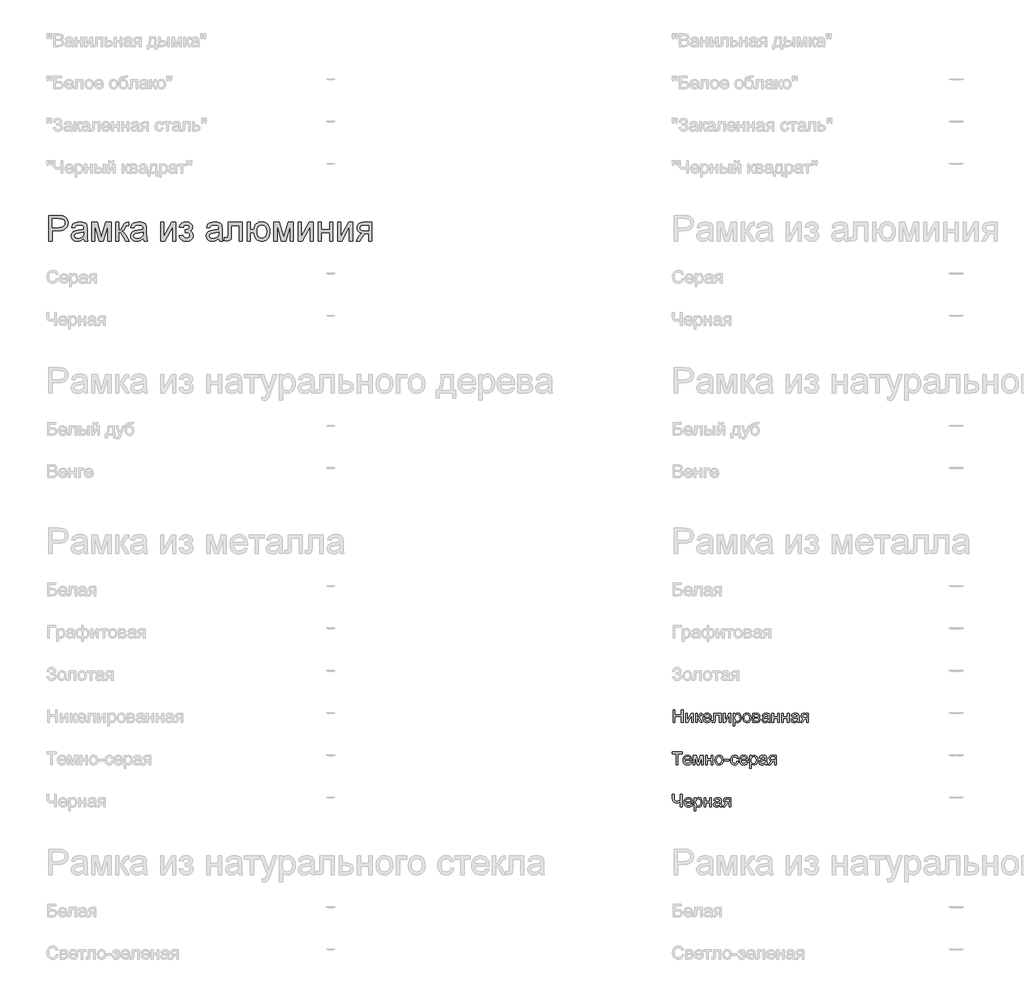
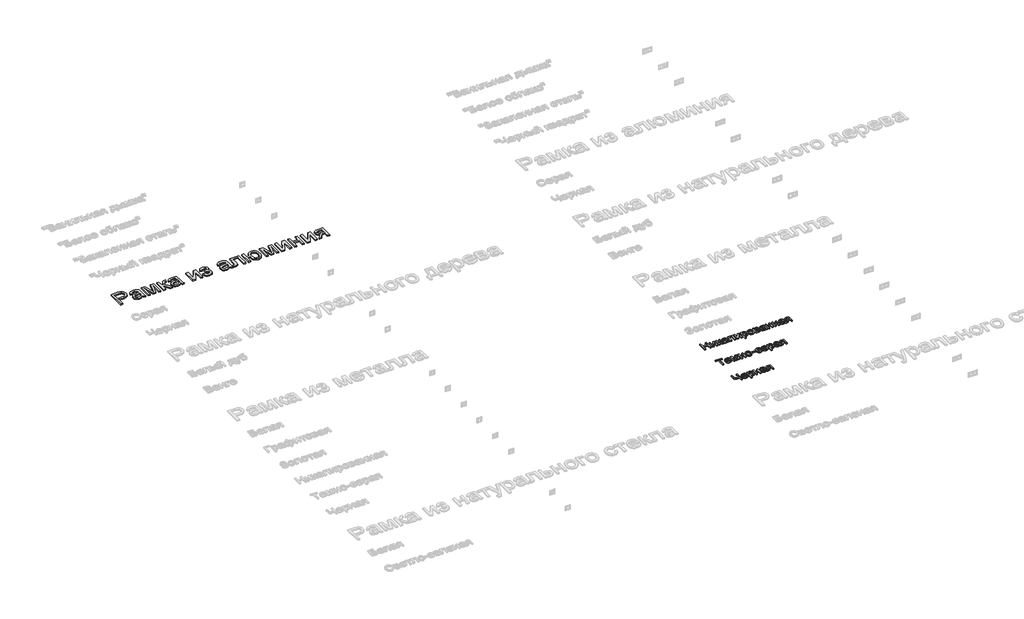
# One storey, part 112 of 168: 4 proxies.
"""IFC4 building model written with IfcOpenShell, lengths in millimetres."""

from ifc_helpers import new_model, si_unit, origin, origin_with_axes, place, context, project, spatial, polyline, outline, extrude, element, save

model = new_model("IFC4")

# Units and contexts
model_context = context("Model", 3, world=origin())
ifc_project = project(units=[si_unit("LENGTHUNIT", "METRE", prefix="MILLI")], contexts=[model_context])

# Site, building, storey
site = spatial("IfcSite", under=ifc_project)
building = spatial("IfcBuilding", under=site)
storey = spatial("IfcBuildingStorey", under=building, Name="Этаж 01", Elevation=0.0)

# Proxies
placement = place(None, origin())
element("IfcBuildingElementProxy", 1, Name="300 мм Arial 2", ObjectType="300 мм Arial 2", at=placement, inside=storey, context=model_context, shape_type="SweptSolid", body=[
    extrude(outline(polyline([(32899.0945017, -8848.4056816), (32899.0945017, -8547.0367511), (33010.7834754, -8547.0367511), (33055.8122316, -8549.9062307), (33075.8893915, -8555.2681108), (33092.4164901, -8563.9961111), (33105.7246213, -8576.4857048), (33116.1448788, -8593.1323651), (33122.8771193, -8612.7680666), (33125.1211995, -8634.224784), (33123.6059855, -8652.7246498), (33119.0603436, -8669.7437906), (33111.4842738, -8685.2822064), (33100.877776, -8699.3398971), (33086.3165468, -8710.9925593), (33066.8762826, -8719.3158895), (33042.5569835, -8724.3098875), (33013.3586494, -8725.9745536), (32936.765618, -8725.9745536), (32936.765618, -8848.4056816), (32899.0945017, -8848.4056816)]), holes=[polyline([(32936.765618, -8688.3034373), (33015.5659413, -8688.3034373), (33048.9696265, -8684.8453465), (33071.0425462, -8674.4710742), (33083.3481989, -8657.824414), (33087.4500832, -8635.5491592), (33085.0312591, -8618.6265874), (33077.7747867, -8604.352766), (33066.581977, -8593.6106117), (33052.3541408, -8587.2830414), (33014.6830245, -8584.7078674), (32936.765618, -8584.7078674), (32936.765618, -8688.3034373)])]), origin_with_axes(), (0.0, 0.0, 1.0), 20.0),
    extrude(outline(polyline([(33313.476781, -8820.1523443), (33295.4781544, -8835.584994), (33276.9460989, -8845.6833548), (33257.4575502, -8851.256767), (33236.589444, -8853.1145711), (33205.1079423, -8848.6448049), (33181.8853914, -8835.2355061), (33167.5655847, -8814.8732377), (33162.7923158, -8789.5445623), (33164.5949376, -8773.9279716), (33170.0028029, -8759.7461207), (33178.3445271, -8747.6060149), (33188.9487257, -8738.1146594), (33215.3258647, -8725.7538244), (33247.9202095, -8720.0884417), (33286.4374544, -8714.1287533), (33313.2560518, -8707.1389954), (33313.476781, -8698.7512859), (33310.883213, -8681.9390788), (33303.1025088, -8670.9394071), (33285.7016904, -8662.7724268), (33261.4582669, -8660.0501), (33239.0174652, -8661.8619189), (33223.3456922, -8667.2973753), (33212.6587202, -8677.3497509), (33205.1723216, -8693.0123268), (33167.5012053, -8688.3034373), (33174.0403078, -8667.7020455), (33183.7983777, -8651.5152378), (33197.685923, -8639.1360086), (33216.6134517, -8629.9573528), (33239.7624262, -8624.273576), (33266.3143092, -8622.3789837), (33291.7809404, -8624.0528468), (33311.9684648, -8629.074436), (33327.1895824, -8636.625214), (33337.7569927, -8645.8866432), (33344.7651447, -8657.3369703), (33349.3084874, -8671.4544419), (33351.1478973, -8704.4166687), (33351.1478973, -8751.2848348), (33353.0608837, -8816.7310418), (33360.5656764, -8848.4056816), (33322.8945601, -8848.4056816), (33313.476781, -8820.1523443)]), holes=[polyline([(33313.476781, -8744.8101117), (33252.7026754, -8756.3616064), (33220.2922716, -8762.4684475), (33205.61378, -8772.4012614), (33200.4634321, -8786.895812), (33203.2685323, -8798.0978187), (33211.683833, -8807.2764745), (33225.525393, -8813.4017097), (33244.6092715, -8815.4434548), (33264.8427813, -8813.1901776), (33282.7218462, -8806.4303459), (33297.2163968, -8796.4699409), (33307.2963635, -8784.6149436), (33311.7661297, -8772.4012614), (33313.2560518, -8755.4786896), (33313.476781, -8744.8101117)])]), origin_with_axes(), (0.0, 0.0, 1.0), 20.0),
    extrude(outline(polyline([(33402.9456823, -8627.0878733), (33467.7664898, -8627.0878733), (33517.7248647, -8804.2598421), (33571.5827888, -8627.0878733), (33633.6812696, -8627.0878733), (33633.6812696, -8848.4056816), (33596.0101533, -8848.4056816), (33596.0101533, -8670.2036431), (33541.8579236, -8848.4056816), (33492.4145835, -8848.4056816), (33440.6167986, -8661.6687808), (33440.6167986, -8848.4056816), (33402.9456823, -8848.4056816), (33402.9456823, -8627.0878733)])), origin_with_axes(), (0.0, 0.0, 1.0), 20.0),
    extrude(outline(polyline([(33690.1879441, -8627.0878733), (33727.8590604, -8627.0878733), (33727.8590604, -8721.265664), (33743.1813455, -8719.5734069), (33753.0957653, -8714.4966353), (33761.8697508, -8701.2528835), (33773.7707334, -8675.0596854), (33790.9508226, -8641.0306009), (33806.1075608, -8629.9573528), (33833.6619222, -8627.0878733), (33840.8724093, -8627.0878733), (33840.8724093, -8664.9797188), (33830.7188662, -8664.7589896), (33812.3247665, -8668.7321151), (33799.3753203, -8693.5273616), (33784.1817939, -8720.345959), (33762.8814263, -8733.4793463), (33774.8191971, -8738.7814455), (33786.6466032, -8748.1394438), (33809.9703217, -8779.0231373), (33850.2901884, -8848.4056816), (33807.4687241, -8848.4056816), (33767.9581979, -8780.4946653), (33748.0925701, -8751.7630814), (33738.8035497, -8746.5483542), (33727.8590604, -8744.8101117), (33727.8590604, -8848.4056816), (33690.1879441, -8848.4056816), (33690.1879441, -8627.0878733)])), origin_with_axes(), (0.0, 0.0, 1.0), 20.0),
    extrude(outline(polyline([(34015.1013222, -8820.1523443), (33997.1026956, -8835.584994), (33978.5706401, -8845.6833548), (33959.0820914, -8851.256767), (33938.2139852, -8853.1145711), (33906.7324835, -8848.6448049), (33883.5099326, -8835.2355061), (33869.1901259, -8814.8732377), (33864.416857, -8789.5445623), (33866.2194788, -8773.9279716), (33871.6273441, -8759.7461207), (33879.9690683, -8747.6060149), (33890.5732669, -8738.1146594), (33916.9504059, -8725.7538244), (33949.5447507, -8720.0884417), (33988.0619956, -8714.1287533), (34014.880593, -8707.1389954), (34015.1013222, -8698.7512859), (34012.5077542, -8681.9390788), (34004.72705, -8670.9394071), (33987.3262316, -8662.7724268), (33963.0828081, -8660.0501), (33940.6420064, -8661.8619189), (33924.9702334, -8667.2973753), (33914.2832614, -8677.3497509), (33906.7968628, -8693.0123268), (33869.1257465, -8688.3034373), (33875.664849, -8667.7020455), (33885.4229189, -8651.5152378), (33899.3104642, -8639.1360086), (33918.2379929, -8629.9573528), (33941.3869674, -8624.273576), (33967.9388504, -8622.3789837), (33993.4054816, -8624.0528468), (34013.593006, -8629.074436), (34028.8141236, -8636.625214), (34039.3815339, -8645.8866432), (34046.3896859, -8657.3369703), (34050.9330286, -8671.4544419), (34052.7724385, -8704.4166687), (34052.7724385, -8751.2848348), (34054.6854249, -8816.7310418), (34062.1902176, -8848.4056816), (34024.5191013, -8848.4056816), (34015.1013222, -8820.1523443)]), holes=[polyline([(34015.1013222, -8744.8101117), (33954.3272166, -8756.3616064), (33921.9168128, -8762.4684475), (33907.2383212, -8772.4012614), (33902.0879733, -8786.895812), (33904.8930735, -8798.0978187), (33913.3083742, -8807.2764745), (33927.1499342, -8813.4017097), (33946.2338127, -8815.4434548), (33966.4673225, -8813.1901776), (33984.3463874, -8806.4303459), (33998.840938, -8796.4699409), (34008.9209047, -8784.6149436), (34013.3906709, -8772.4012614), (34014.880593, -8755.4786896), (34015.1013222, -8744.8101117)])]), origin_with_axes(), (0.0, 0.0, 1.0), 20.0),
    extrude(outline(polyline([(34222.2924619, -8627.0878733), (34259.9635782, -8627.0878733), (34259.9635782, -8795.8721327), (34352.5226882, -8627.0878733), (34401.2302644, -8627.0878733), (34401.2302644, -8848.4056816), (34363.5591481, -8848.4056816), (34363.5591481, -8680.6514918), (34271.5886493, -8848.4056816), (34222.2924619, -8848.4056816), (34222.2924619, -8627.0878733)])), origin_with_axes(), (0.0, 0.0, 1.0), 20.0),
    extrude(outline(polyline([(34509.5347237, -8749.5190013), (34509.5347237, -8711.847885), (34539.259589, -8710.376357), (34554.2691744, -8702.5404705), (34559.5666751, -8695.1920276), (34561.3325087, -8686.1697217), (34558.9688668, -8675.4551586), (34551.8779414, -8667.1502225), (34541.0530137, -8661.8251307), (34527.4873651, -8660.0501), (34513.7745637, -8661.8159336), (34502.2874484, -8667.1134343), (34493.0260192, -8675.9426022), (34485.9902761, -8688.3034373), (34443.6102702, -8683.5945477), (34454.8490652, -8656.8127385), (34471.9371838, -8637.6828747), (34494.8746262, -8626.2049565), (34523.6613924, -8622.3789837), (34555.1520911, -8627.041888), (34578.9908444, -8641.0306009), (34594.0004298, -8661.4940369), (34599.003625, -8685.5811105), (34597.2239958, -8697.9419455), (34591.8851084, -8708.9784054), (34582.9869626, -8718.6904901), (34570.5295585, -8727.0781996), (34585.0700944, -8737.5444423), (34595.4351696, -8750.5490709), (34601.6431783, -8766.1288733), (34603.7125145, -8784.320638), (34598.460999, -8812.0497434), (34582.7064526, -8834.0214956), (34557.515733, -8848.3413022), (34523.955698, -8853.1145711), (34491.1314269, -8848.6999872), (34466.0142837, -8835.4562353), (34448.6042683, -8813.3833156), (34438.9013807, -8782.481228), (34481.2813865, -8777.7723385), (34487.6273509, -8793.7016289), (34498.2775347, -8805.5842173), (34511.9995331, -8812.9786454), (34527.5609415, -8815.4434548), (34542.7176797, -8813.079813), (34555.0785147, -8805.9888875), (34563.3006773, -8795.2191421), (34566.0413982, -8781.8190404), (34564.339944, -8771.2056449), (34559.2355813, -8762.0269891), (34544.7410307, -8751.4319876), (34516.8923636, -8749.2982721), (34509.5347237, -8749.5190013)])), origin_with_axes(), (0.0, 0.0, 1.0), 20.0),
    extrude(outline(polyline([(34909.7903345, -8820.1523443), (34891.7917079, -8835.584994), (34873.2596524, -8845.6833548), (34853.7711037, -8851.256767), (34832.9029975, -8853.1145711), (34801.4214958, -8848.6448049), (34778.1989448, -8835.2355061), (34763.8791382, -8814.8732377), (34759.1058693, -8789.5445623), (34760.908491, -8773.9279716), (34766.3163564, -8759.7461207), (34774.6580806, -8747.6060149), (34785.2622791, -8738.1146594), (34811.6394182, -8725.7538244), (34844.233763, -8720.0884417), (34882.7510079, -8714.1287533), (34909.5696053, -8707.1389954), (34909.7903345, -8698.7512859), (34907.1967664, -8681.9390788), (34899.4160622, -8670.9394071), (34882.0152439, -8662.7724268), (34857.7718204, -8660.0501), (34835.3310187, -8661.8619189), (34819.6592457, -8667.2973753), (34808.9722737, -8677.3497509), (34801.4858751, -8693.0123268), (34763.8147588, -8688.3034373), (34770.3538613, -8667.7020455), (34780.1119312, -8651.5152378), (34793.9994765, -8639.1360086), (34812.9270052, -8629.9573528), (34836.0759797, -8624.273576), (34862.6278627, -8622.3789837), (34888.0944938, -8624.0528468), (34908.2820183, -8629.074436), (34923.5031359, -8636.625214), (34934.0705462, -8645.8866432), (34941.0786982, -8657.3369703), (34945.6220408, -8671.4544419), (34947.4614508, -8704.4166687), (34947.4614508, -8751.2848348), (34949.3744372, -8816.7310418), (34956.8792299, -8848.4056816), (34919.2081136, -8848.4056816), (34909.7903345, -8820.1523443)]), holes=[polyline([(34909.7903345, -8744.8101117), (34849.0162289, -8756.3616064), (34816.6058251, -8762.4684475), (34801.9273335, -8772.4012614), (34796.7769856, -8786.895812), (34799.5820858, -8798.0978187), (34807.9973864, -8807.2764745), (34821.8389465, -8813.4017097), (34840.922825, -8815.4434548), (34861.1563347, -8813.1901776), (34879.0353997, -8806.4303459), (34893.5299503, -8796.4699409), (34903.609917, -8784.6149436), (34908.0796832, -8772.4012614), (34909.5696053, -8755.4786896), (34909.7903345, -8744.8101117)])]), origin_with_axes(), (0.0, 0.0, 1.0), 20.0),
    extrude(outline(polyline([(35018.0947939, -8627.0878733), (35187.6148173, -8627.0878733), (35187.6148173, -8848.1849524), (35149.9437009, -8848.1849524), (35149.9437009, -8664.7589896), (35055.7659102, -8664.7589896), (35055.7659102, -8770.3411222), (35053.2275244, -8819.0486984), (35048.4726496, -8830.0759612), (35039.2847968, -8839.6133019), (35025.3420692, -8846.2075866), (35006.32257, -8848.4056816), (34975.714788, -8846.4926952), (34975.714788, -8810.7345653), (34992.5637834, -8810.7345653), (35009.5967198, -8808.4169087), (35016.4025367, -8801.0592688), (35018.0947939, -8768.2074066), (35018.0947939, -8627.0878733)])), origin_with_axes(), (0.0, 0.0, 1.0), 20.0),
    extrude(outline(polyline([(35244.1214917, -8627.0878733), (35281.792608, -8627.0878733), (35281.792608, -8711.847885), (35324.1726139, -8711.847885), (35333.9490779, -8673.4410047), (35342.4724439, -8658.1003255), (35353.4192325, -8645.3348202), (35366.4813426, -8635.2916418), (35381.350673, -8628.1179429), (35416.5109947, -8622.3789837), (35446.0611159, -8625.754301), (35468.6398734, -8635.880253), (35486.0590858, -8651.929105), (35500.1305722, -8673.0731227), (35509.4287896, -8700.8850015), (35512.5281954, -8736.937437), (35510.9256095, -8763.7928227), (35506.1178516, -8787.1901176), (35498.1049219, -8807.1293217), (35486.8868203, -8823.6104351), (35472.9233994, -8836.5184946), (35456.6745115, -8845.7385371), (35438.1401567, -8851.2705626), (35417.320335, -8853.1145711), (35397.9168591, -8851.3855257), (35380.5413326, -8846.1983896), (35365.1937556, -8837.5531627), (35351.8741281, -8825.4498451), (35340.9135439, -8810.3298951), (35332.6430968, -8792.6347711), (35324.1726139, -8749.5190013), (35281.792608, -8749.5190013), (35281.792608, -8848.4056816), (35244.1214917, -8848.4056816), (35244.1214917, -8627.0878733)]), holes=[polyline([(35418.9390158, -8660.0501), (35394.9255186, -8664.9245365), (35376.8901038, -8679.5478458), (35365.6053236, -8702.9635348), (35361.8437302, -8734.2151103), (35365.6329147, -8770.6262307), (35377.0004684, -8795.8353445), (35394.7139864, -8810.5414272), (35417.5410642, -8815.4434548), (35440.4325214, -8810.9093092), (35458.7806359, -8797.3068724), (35470.8379683, -8773.6060749), (35474.8570791, -8738.776847), (35471.3805942, -8704.3338952), (35460.9511397, -8679.7317868), (35443.495139, -8664.9705217), (35418.9390158, -8660.0501)])]), origin_with_axes(), (0.0, 0.0, 1.0), 20.0),
    extrude(outline(polyline([(35559.6170908, -8627.0878733), (35624.4378983, -8627.0878733), (35674.3962733, -8804.2598421), (35728.2541974, -8627.0878733), (35790.3526782, -8627.0878733), (35790.3526782, -8848.4056816), (35752.6815618, -8848.4056816), (35752.6815618, -8670.2036431), (35698.5293322, -8848.4056816), (35649.085992, -8848.4056816), (35597.2882071, -8661.6687808), (35597.2882071, -8848.4056816), (35559.6170908, -8848.4056816), (35559.6170908, -8627.0878733)])), origin_with_axes(), (0.0, 0.0, 1.0), 20.0),
    extrude(outline(polyline([(35846.8593526, -8627.0878733), (35884.5304689, -8627.0878733), (35884.5304689, -8795.8721327), (35977.0895789, -8627.0878733), (36025.7971551, -8627.0878733), (36025.7971551, -8848.4056816), (35988.1260388, -8848.4056816), (35988.1260388, -8680.6514918), (35896.15554, -8848.4056816), (35846.8593526, -8848.4056816), (35846.8593526, -8627.0878733)])), origin_with_axes(), (0.0, 0.0, 1.0), 20.0),
    extrude(outline(polyline([(36082.3038295, -8627.0878733), (36119.9749458, -8627.0878733), (36119.9749458, -8711.847885), (36218.8616261, -8711.847885), (36218.8616261, -8627.0878733), (36256.5327424, -8627.0878733), (36256.5327424, -8848.4056816), (36218.8616261, -8848.4056816), (36218.8616261, -8749.5190013), (36119.9749458, -8749.5190013), (36119.9749458, -8848.4056816), (36082.3038295, -8848.4056816), (36082.3038295, -8627.0878733)])), origin_with_axes(), (0.0, 0.0, 1.0), 20.0),
    extrude(outline(polyline([(36313.0394169, -8627.0878733), (36350.7105332, -8627.0878733), (36350.7105332, -8795.8721327), (36443.2696432, -8627.0878733), (36491.9772194, -8627.0878733), (36491.9772194, -8848.4056816), (36454.306103, -8848.4056816), (36454.306103, -8680.6514918), (36362.3356043, -8848.4056816), (36313.0394169, -8848.4056816), (36313.0394169, -8627.0878733)])), origin_with_axes(), (0.0, 0.0, 1.0), 20.0),
    extrude(outline(polyline([(36718.0039172, -8627.0878733), (36718.0039172, -8848.4056816), (36680.3328009, -8848.4056816), (36680.3328009, -8763.6456699), (36659.8049856, -8763.6456699), (36631.8459539, -8768.4281358), (36620.6807354, -8778.8575904), (36605.5791795, -8800.5810222), (36575.5600087, -8848.4056816), (36532.0027804, -8848.4056816), (36569.8210495, -8787.9258816), (36586.5228921, -8766.2208438), (36601.9003595, -8756.5823356), (36576.1486198, -8748.6912668), (36558.0488257, -8733.7000755), (36547.3434596, -8713.7608713), (36543.7750043, -8691.025764), (36548.6494407, -8665.2372362), (36563.27275, -8644.8197854), (36587.1298974, -8631.5208513), (36619.7058481, -8627.0878733), (36718.0039172, -8627.0878733)]), holes=[polyline([(36680.3328009, -8664.7589896), (36630.6687315, -8664.7589896), (36605.0181594, -8666.9386904), (36590.4592295, -8673.4777929), (36583.6993978, -8682.9415572), (36581.4461206, -8693.8952436), (36584.7662556, -8708.2518385), (36594.7266606, -8718.2122435), (36613.1299574, -8724.033976), (36641.7787678, -8725.9745536), (36680.3328009, -8725.9745536), (36680.3328009, -8664.7589896)])]), origin_with_axes(), (0.0, 0.0, 1.0), 20.0),
])
element("IfcBuildingElementProxy", 2, Name="150", ObjectType="150", at=placement, inside=storey, context=model_context, shape_type="SweptSolid", body=[
    extrude(outline(polyline([(40282.6133883, -14548.4056816), (40282.6133883, -14397.7212163), (40301.4489464, -14397.7212163), (40301.4489464, -14458.9367803), (40381.5000686, -14458.9367803), (40381.5000686, -14397.7212163), (40400.3356267, -14397.7212163), (40400.3356267, -14548.4056816), (40381.5000686, -14548.4056816), (40381.5000686, -14477.7723385), (40301.4489464, -14477.7723385), (40301.4489464, -14548.4056816), (40282.6133883, -14548.4056816)])), origin_with_axes(), (0.0, 0.0, 1.0), 20.0),
    extrude(outline(polyline([(40430.9434087, -14437.7467774), (40449.7789669, -14437.7467774), (40449.7789669, -14522.1389071), (40496.0585219, -14437.7467774), (40520.41231, -14437.7467774), (40520.41231, -14548.4056816), (40501.5767518, -14548.4056816), (40501.5767518, -14464.5285867), (40455.5915024, -14548.4056816), (40430.9434087, -14548.4056816), (40430.9434087, -14437.7467774)])), origin_with_axes(), (0.0, 0.0, 1.0), 20.0),
    extrude(outline(polyline([(40548.6656472, -14437.7467774), (40567.5012053, -14437.7467774), (40567.5012053, -14484.8356728), (40580.1195578, -14481.4511584), (40590.4570418, -14461.7326835), (40599.0470864, -14444.7181412), (40606.6254555, -14439.1815172), (40620.4026362, -14437.7467774), (40624.0078798, -14437.7467774), (40624.0078798, -14456.6927002), (40618.9311083, -14456.5823356), (40609.7340584, -14458.5688983), (40603.2593353, -14470.9665216), (40595.6625721, -14484.3758203), (40585.0123883, -14490.9425139), (40596.8949768, -14498.2725627), (40608.556836, -14513.7144094), (40628.7167693, -14548.4056816), (40607.3060372, -14548.4056816), (40587.5507741, -14514.4501734), (40577.6179602, -14500.0843815), (40567.5012053, -14496.6078966), (40567.5012053, -14548.4056816), (40548.6656472, -14548.4056816), (40548.6656472, -14437.7467774)])), origin_with_axes(), (0.0, 0.0, 1.0), 20.0),
    extrude(outline(polyline([(40717.9649414, -14515.4434548), (40736.4326175, -14517.7978996), (40729.7785519, -14531.713036), (40719.1605579, -14542.1148995), (40704.8177586, -14548.5988196), (40686.9892774, -14550.7601263), (40664.8887665, -14547.0307226), (40647.8834213, -14535.8425114), (40637.0400995, -14517.9220597), (40633.4256589, -14493.9959345), (40637.0768877, -14469.2650674), (40648.0305741, -14450.7698), (40664.8059931, -14439.2366995), (40685.9224196, -14435.3923327), (40706.381257, -14439.2275025), (40722.7290132, -14450.7330118), (40733.4481748, -14469.191491), (40737.0212287, -14493.8855699), (40736.9108641, -14498.9623414), (40652.261217, -14498.9623414), (40655.5215712, -14513.0614189), (40663.0953418, -14523.4264941), (40674.0260356, -14529.8000497), (40687.3571594, -14531.9245682), (40705.8248355, -14527.9882308), (40717.9649414, -14515.4434548)]), holes=[polyline([(40652.261217, -14480.1267833), (40718.1856706, -14480.1267833), (40715.6380877, -14470.1755753), (40710.6440897, -14463.0570587), (40699.6628121, -14456.4351828), (40685.8488432, -14454.2278908), (40673.1523158, -14455.9891259), (40662.6538834, -14461.272831), (40655.3560243, -14469.5087892), (40652.261217, -14480.1267833)])]), origin_with_axes(), (0.0, 0.0, 1.0), 20.0),
    extrude(outline(polyline([(40765.2745659, -14437.7467774), (40850.0345776, -14437.7467774), (40850.0345776, -14548.295317), (40831.1990195, -14548.295317), (40831.1990195, -14456.5823356), (40784.1101241, -14456.5823356), (40784.1101241, -14509.3734019), (40782.8409312, -14533.72719), (40775.8695674, -14544.0094917), (40759.388454, -14548.4056816), (40744.084563, -14547.4491884), (40744.084563, -14529.5701234), (40752.5090607, -14529.5701234), (40761.0255289, -14528.4112951), (40764.4284374, -14524.7324752), (40765.2745659, -14508.3065441), (40765.2745659, -14437.7467774)])), origin_with_axes(), (0.0, 0.0, 1.0), 20.0),
    extrude(outline(polyline([(40878.2879149, -14437.7467774), (40897.123473, -14437.7467774), (40897.123473, -14522.1389071), (40943.403028, -14437.7467774), (40967.7568161, -14437.7467774), (40967.7568161, -14548.4056816), (40948.9212579, -14548.4056816), (40948.9212579, -14464.5285867), (40902.9360085, -14548.4056816), (40878.2879149, -14548.4056816), (40878.2879149, -14437.7467774)])), origin_with_axes(), (0.0, 0.0, 1.0), 20.0),
    extrude(outline(polyline([(40996.0101533, -14590.7856874), (40996.0101533, -14437.7467774), (41014.8457115, -14437.7467774), (41014.8457115, -14456.2144536), (41027.8687341, -14440.5978629), (41045.4534935, -14435.3923327), (41058.1914076, -14437.2133485), (41069.329035, -14442.6763962), (41078.3973261, -14451.4503817), (41084.9272316, -14463.2042115), (41090.1879441, -14492.2301009), (41088.7026205, -14508.3387338), (41084.2466499, -14522.7459124), (41076.9625864, -14534.7204713), (41066.9929843, -14543.5312451), (41055.3817088, -14548.952906), (41043.1726251, -14550.7601263), (41026.7834822, -14545.9224781), (41014.8457115, -14533.6904018), (41014.8457115, -14590.7856874), (40996.0101533, -14590.7856874)]), holes=[polyline([(41014.8457115, -14493.9591463), (41016.882858, -14510.8449299), (41022.9942977, -14522.6539419), (41032.0120051, -14529.6069116), (41042.7679549, -14531.9245682), (41053.6986487, -14529.5241382), (41062.9462823, -14522.3228481), (41069.25086, -14510.0815747), (41071.3523859, -14492.5611947), (41069.3014438, -14475.7673816), (41063.1486174, -14463.7928227), (41054.1447056, -14456.6191238), (41043.5405071, -14454.2278908), (41032.8949219, -14456.7708751), (41023.5461207, -14464.399828), (41017.0208138, -14476.8756261), (41014.8457115, -14493.9591463)])]), origin_with_axes(), (0.0, 0.0, 1.0), 20.0),
    extrude(outline(polyline([(41106.6690575, -14493.0762295), (41110.7433506, -14466.3955878), (41122.9662299, -14447.6428031), (41138.0677858, -14438.4549503), (41156.1491858, -14435.3923327), (41175.9366386, -14439.1217364), (41191.7417689, -14450.3099476), (41202.1022455, -14468.0740494), (41205.5557378, -14491.5311251), (41204.0290275, -14510.5598213), (41199.4488967, -14525.0451749), (41191.9487025, -14535.8930952), (41181.6618022, -14544.0094917), (41169.4435214, -14549.0724677), (41156.1491858, -14550.7601263), (41136.1226097, -14547.0445182), (41120.3358736, -14535.8976937), (41110.0857615, -14517.7611114), (41106.6690575, -14493.0762295)]), holes=[polyline([(41125.5046156, -14493.0394413), (41127.6843164, -14510.0861732), (41134.2234189, -14522.2308776), (41144.0642623, -14529.5011455), (41156.1491858, -14531.9245682), (41168.1789271, -14529.48735), (41178.0013763, -14522.1756953), (41184.5404788, -14509.8700426), (41186.7201796, -14492.4508301), (41184.5266832, -14475.9007388), (41177.946194, -14463.9215814), (41168.1099492, -14456.6513134), (41156.1491858, -14454.2278908), (41144.0642623, -14456.6421164), (41134.2234189, -14463.8847932), (41127.6843164, -14476.0019064), (41125.5046156, -14493.0394413)])]), origin_with_axes(), (0.0, 0.0, 1.0), 20.0),
    extrude(outline(polyline([(41226.7457407, -14437.7467774), (41268.2428298, -14437.7467774), (41290.9963312, -14440.2667691), (41303.7986246, -14449.5006072), (41309.1513076, -14465.5954445), (41305.9139461, -14478.6736494), (41296.1650732, -14487.999458), (41308.8202138, -14498.2081833), (41313.8601972, -14515.9584896), (41310.6688208, -14530.3150845), (41303.0812547, -14540.4226423), (41291.0699076, -14546.4099217), (41274.6071883, -14548.4056816), (41226.7457407, -14548.4056816), (41226.7457407, -14437.7467774)]), holes=[polyline([(41245.5812988, -14480.1267833), (41264.1961278, -14480.1267833), (41279.5552011, -14479.1702901), (41287.0232056, -14475.3443173), (41290.3157495, -14468.4281358), (41288.8718126, -14462.8087383), (41284.5400021, -14459.1942977), (41264.784739, -14456.5823356), (41245.5812988, -14456.5823356), (41245.5812988, -14480.1267833)]), polyline([(41245.5812988, -14529.5701234), (41268.6842881, -14529.5701234), (41289.1753153, -14526.167215), (41293.4151553, -14521.5273033), (41295.024639, -14514.4133852), (41291.8056715, -14505.345094), (41283.4179621, -14500.0659874), (41266.8448782, -14498.9623414), (41245.5812988, -14498.9623414), (41245.5812988, -14529.5701234)])]), origin_with_axes(), (0.0, 0.0, 1.0), 20.0),
    extrude(outline(polyline([(41408.0379879, -14534.279013), (41389.7726469, -14547.0445182), (41369.5943194, -14550.7601263), (41353.8535686, -14548.5252432), (41342.2422931, -14541.8205939), (41335.0823898, -14531.6394596), (41332.6957553, -14518.975122), (41336.3009989, -14504.0759012), (41345.7739602, -14493.2601705), (41358.9625298, -14487.079753), (41375.2597021, -14484.2470616), (41407.9276233, -14477.7723385), (41408.0379879, -14473.5784838), (41406.7412039, -14465.1723802), (41402.8508518, -14459.6725443), (41394.1504426, -14455.5890542), (41382.0287309, -14454.2278908), (41362.9724435, -14457.8515285), (41353.8857582, -14470.7090042), (41335.0502001, -14468.3545594), (41343.1987863, -14449.9604597), (41359.6063233, -14439.1815172), (41384.456752, -14435.3923327), (41407.2838298, -14438.7400588), (41420.1780938, -14447.1461624), (41425.9538411, -14459.9300617), (41426.8735461, -14476.4111751), (41426.8735461, -14499.8452582), (41427.8300393, -14532.5683617), (41431.5824356, -14548.4056816), (41412.7468775, -14548.4056816), (41408.0379879, -14534.279013)]), holes=[polyline([(41408.0379879, -14496.6078966), (41377.6509351, -14502.383644), (41361.4457332, -14505.4370645), (41354.1064874, -14510.4034715), (41351.5313135, -14517.6507468), (41357.1415139, -14527.841078), (41373.6042332, -14531.9245682), (41392.6605205, -14527.4180137), (41404.9477792, -14516.5103126), (41407.9276233, -14501.9421856), (41408.0379879, -14496.6078966)])]), origin_with_axes(), (0.0, 0.0, 1.0), 20.0),
    extrude(outline(polyline([(41452.7724385, -14437.7467774), (41471.6079967, -14437.7467774), (41471.6079967, -14480.1267833), (41521.0513368, -14480.1267833), (41521.0513368, -14437.7467774), (41539.886895, -14437.7467774), (41539.886895, -14548.4056816), (41521.0513368, -14548.4056816), (41521.0513368, -14498.9623414), (41471.6079967, -14498.9623414), (41471.6079967, -14548.4056816), (41452.7724385, -14548.4056816), (41452.7724385, -14437.7467774)])), origin_with_axes(), (0.0, 0.0, 1.0), 20.0),
    extrude(outline(polyline([(41568.1402322, -14437.7467774), (41586.9757904, -14437.7467774), (41586.9757904, -14480.1267833), (41636.4191305, -14480.1267833), (41636.4191305, -14437.7467774), (41655.2546887, -14437.7467774), (41655.2546887, -14548.4056816), (41636.4191305, -14548.4056816), (41636.4191305, -14498.9623414), (41586.9757904, -14498.9623414), (41586.9757904, -14548.4056816), (41568.1402322, -14548.4056816), (41568.1402322, -14437.7467774)])), origin_with_axes(), (0.0, 0.0, 1.0), 20.0),
    extrude(outline(polyline([(41754.141369, -14534.279013), (41735.8760279, -14547.0445182), (41715.6977005, -14550.7601263), (41699.9569496, -14548.5252432), (41688.3456741, -14541.8205939), (41681.1857708, -14531.6394596), (41678.7991364, -14518.975122), (41682.4043799, -14504.0759012), (41691.8773413, -14493.2601705), (41705.0659108, -14487.079753), (41721.3630832, -14484.2470616), (41754.0310044, -14477.7723385), (41754.141369, -14473.5784838), (41752.8445849, -14465.1723802), (41748.9542328, -14459.6725443), (41740.2538237, -14455.5890542), (41728.1321119, -14454.2278908), (41709.0758246, -14457.8515285), (41699.9891393, -14470.7090042), (41681.1535811, -14468.3545594), (41689.3021673, -14449.9604597), (41705.7097043, -14439.1815172), (41730.5601331, -14435.3923327), (41753.3872109, -14438.7400588), (41766.2814748, -14447.1461624), (41772.0572221, -14459.9300617), (41772.9769271, -14476.4111751), (41772.9769271, -14499.8452582), (41773.9334203, -14532.5683617), (41777.6858167, -14548.4056816), (41758.8502585, -14548.4056816), (41754.141369, -14534.279013)]), holes=[polyline([(41754.141369, -14496.6078966), (41723.7543162, -14502.383644), (41707.5491143, -14505.4370645), (41700.2098685, -14510.4034715), (41697.6346945, -14517.6507468), (41703.2448949, -14527.841078), (41719.7076142, -14531.9245682), (41738.7639016, -14527.4180137), (41751.0511602, -14516.5103126), (41754.0310044, -14501.9421856), (41754.141369, -14496.6078966)])]), origin_with_axes(), (0.0, 0.0, 1.0), 20.0),
    extrude(outline(polyline([(41883.6358313, -14437.7467774), (41883.6358313, -14548.4056816), (41864.8002731, -14548.4056816), (41864.8002731, -14506.0256757), (41854.5363655, -14506.0256757), (41840.5568496, -14508.4169087), (41827.4234624, -14524.4933519), (41812.413877, -14548.4056816), (41790.6352629, -14548.4056816), (41809.5443975, -14518.1657816), (41817.8953187, -14507.3132627), (41825.5840524, -14502.4940086), (41812.7081826, -14498.5484742), (41803.6582855, -14491.0528785), (41798.3056025, -14481.0832765), (41796.5213748, -14469.7157228), (41798.958593, -14456.8214589), (41806.2702477, -14446.6127335), (41818.1988214, -14439.9632664), (41834.4867967, -14437.7467774), (41883.6358313, -14437.7467774)]), holes=[polyline([(41864.8002731, -14456.5823356), (41839.9682385, -14456.5823356), (41827.1429524, -14457.672186), (41819.8634874, -14460.9417372), (41815.356933, -14471.1504626), (41817.0170005, -14478.32876), (41821.997203, -14483.3089625), (41845.5232566, -14487.1901176), (41864.8002731, -14487.1901176), (41864.8002731, -14456.5823356)])]), origin_with_axes(), (0.0, 0.0, 1.0), 20.0),
])
element("IfcBuildingElementProxy", 3, Name="150", ObjectType="150", at=placement, inside=storey, context=model_context, shape_type="SweptSolid", body=[
    extrude(outline(polyline([(40320.2845046, -15048.4056816), (40320.2845046, -14916.5567745), (40270.8411644, -14916.5567745), (40270.8411644, -14897.7212163), (40388.5634029, -14897.7212163), (40388.5634029, -14916.5567745), (40339.1200627, -14916.5567745), (40339.1200627, -15048.4056816), (40320.2845046, -15048.4056816)])), origin_with_axes(), (0.0, 0.0, 1.0), 20.0),
    extrude(outline(polyline([(40484.8749092, -15015.4434548), (40503.3425854, -15017.7978996), (40496.6885198, -15031.713036), (40486.0705257, -15042.1148995), (40471.7277264, -15048.5988196), (40453.8992452, -15050.7601263), (40431.7987344, -15047.0307226), (40414.7933891, -15035.8425114), (40403.9500673, -15017.9220597), (40400.3356267, -14993.9959345), (40403.9868555, -14969.2650674), (40414.9405419, -14950.7698), (40431.7159609, -14939.2366995), (40452.8323874, -14935.3923327), (40473.2912249, -14939.2275025), (40489.6389811, -14950.7330118), (40500.3581427, -14969.191491), (40503.9311966, -14993.8855699), (40503.820832, -14998.9623414), (40419.1711849, -14998.9623414), (40422.4315391, -15013.0614189), (40430.0053096, -15023.4264941), (40440.9360034, -15029.8000497), (40454.2671272, -15031.9245682), (40472.7348034, -15027.9882308), (40484.8749092, -15015.4434548)]), holes=[polyline([(40419.1711849, -14980.1267833), (40485.0956384, -14980.1267833), (40482.5480556, -14970.1755753), (40477.5540575, -14963.0570587), (40466.57278, -14956.4351828), (40452.758811, -14954.2278908), (40440.0622837, -14955.9891259), (40429.5638512, -14961.272831), (40422.2659922, -14969.5087892), (40419.1711849, -14980.1267833)])]), origin_with_axes(), (0.0, 0.0, 1.0), 20.0),
    extrude(outline(polyline([(40522.7667547, -14937.7467774), (40555.1771585, -14937.7467774), (40580.156346, -15026.3327619), (40607.085308, -14937.7467774), (40638.1345484, -14937.7467774), (40638.1345484, -15048.4056816), (40619.2989903, -15048.4056816), (40619.2989903, -14959.3046623), (40592.2228754, -15048.4056816), (40567.5012053, -15048.4056816), (40541.6023129, -14955.0372312), (40541.6023129, -15048.4056816), (40522.7667547, -15048.4056816), (40522.7667547, -14937.7467774)])), origin_with_axes(), (0.0, 0.0, 1.0), 20.0),
    extrude(outline(polyline([(40666.3878856, -14937.7467774), (40685.2234438, -14937.7467774), (40685.2234438, -14980.1267833), (40734.6667839, -14980.1267833), (40734.6667839, -14937.7467774), (40753.5023421, -14937.7467774), (40753.5023421, -15048.4056816), (40734.6667839, -15048.4056816), (40734.6667839, -14998.9623414), (40685.2234438, -14998.9623414), (40685.2234438, -15048.4056816), (40666.3878856, -15048.4056816), (40666.3878856, -14937.7467774)])), origin_with_axes(), (0.0, 0.0, 1.0), 20.0),
    extrude(outline(polyline([(40777.0467898, -14993.0762295), (40781.1210829, -14966.3955878), (40793.3439622, -14947.6428031), (40808.4455181, -14938.4549503), (40826.5269181, -14935.3923327), (40846.314371, -14939.1217364), (40862.1195012, -14950.3099476), (40872.4799779, -14968.0740494), (40875.9334701, -14991.5311251), (40874.4067598, -15010.5598213), (40869.826629, -15025.0451749), (40862.3264348, -15035.8930952), (40852.0395345, -15044.0094917), (40839.8212537, -15049.0724677), (40826.5269181, -15050.7601263), (40806.500342, -15047.0445182), (40790.7136059, -15035.8976937), (40780.4634938, -15017.7611114), (40777.0467898, -14993.0762295)]), holes=[polyline([(40795.8823479, -14993.0394413), (40798.0620488, -15010.0861732), (40804.6011512, -15022.2308776), (40814.4419946, -15029.5011455), (40826.5269181, -15031.9245682), (40838.5566594, -15029.48735), (40848.3791087, -15022.1756953), (40854.9182111, -15009.8700426), (40857.0979119, -14992.4508301), (40854.9044155, -14975.9007388), (40848.3239264, -14963.9215814), (40838.4876815, -14956.6513134), (40826.5269181, -14954.2278908), (40814.4419946, -14956.6421164), (40804.6011512, -14963.8847932), (40798.0620488, -14976.0019064), (40795.8823479, -14993.0394413)])]), origin_with_axes(), (0.0, 0.0, 1.0), 20.0),
    extrude(outline(polyline([(40887.7056939, -15003.671231), (40887.7056939, -14984.8356728), (40946.5668132, -14984.8356728), (40946.5668132, -15003.671231), (40887.7056939, -15003.671231)])), origin_with_axes(), (0.0, 0.0, 1.0), 20.0),
    extrude(outline(polyline([(41038.3901592, -15008.3801205), (41057.2257173, -15010.7345653), (41051.9742018, -15027.4869916), (41042.1057673, -15040.1467308), (41028.5493158, -15048.1067774), (41012.2337493, -15050.7601263), (40992.1979761, -15047.0583138), (40976.5308017, -15035.952876), (40966.4186453, -15017.9312568), (40963.0479266, -14993.4808997), (40964.4872649, -14976.7192763), (40968.8052798, -14962.192536), (40976.0709492, -14950.4616989), (40986.3532509, -14942.087785), (40998.6543052, -14937.0661957), (41011.9762319, -14935.3923327), (41027.8917267, -14937.6915951), (41040.6158452, -14944.5893825), (41049.7439172, -14955.7178129), (41054.8712725, -14970.7090042), (41036.0357144, -14973.063449), (41027.298517, -14958.9551744), (41012.1233847, -14954.2278908), (40999.9510892, -14956.5547444), (40990.2895883, -14963.5353053), (40983.9850106, -14975.5466524), (40981.8834847, -14992.9658649), (40983.9390254, -15010.6196021), (40990.1056473, -15022.672336), (40999.5924042, -15029.6115101), (41011.6083499, -15031.9245682), (41021.3618213, -15030.4806314), (41029.3586562, -15026.1488209), (41035.1757902, -15018.8187721), (41038.3901592, -15008.3801205)])), origin_with_axes(), (0.0, 0.0, 1.0), 20.0),
    extrude(outline(polyline([(41151.1827789, -15015.4434548), (41169.650455, -15017.7978996), (41162.9963895, -15031.713036), (41152.3783954, -15042.1148995), (41138.0355961, -15048.5988196), (41120.2071149, -15050.7601263), (41098.106604, -15047.0307226), (41081.1012588, -15035.8425114), (41070.257937, -15017.9220597), (41066.6434964, -14993.9959345), (41070.2947252, -14969.2650674), (41081.2484116, -14950.7698), (41098.0238306, -14939.2366995), (41119.1402571, -14935.3923327), (41139.5990946, -14939.2275025), (41155.9468507, -14950.7330118), (41166.6660124, -14969.191491), (41170.2390662, -14993.8855699), (41170.1287016, -14998.9623414), (41085.4790545, -14998.9623414), (41088.7394087, -15013.0614189), (41096.3131793, -15023.4264941), (41107.2438731, -15029.8000497), (41120.5749969, -15031.9245682), (41139.042673, -15027.9882308), (41151.1827789, -15015.4434548)]), holes=[polyline([(41085.4790545, -14980.1267833), (41151.4035081, -14980.1267833), (41148.8559253, -14970.1755753), (41143.8619272, -14963.0570587), (41132.8806496, -14956.4351828), (41119.0666807, -14954.2278908), (41106.3701533, -14955.9891259), (41095.8717209, -14961.272831), (41088.5738618, -14969.5087892), (41085.4790545, -14980.1267833)])]), origin_with_axes(), (0.0, 0.0, 1.0), 20.0),
    extrude(outline(polyline([(41189.0746244, -15090.7856874), (41189.0746244, -14937.7467774), (41207.9101825, -14937.7467774), (41207.9101825, -14956.2144536), (41220.9332052, -14940.5978629), (41238.5179645, -14935.3923327), (41251.2558786, -14937.2133485), (41262.393506, -14942.6763962), (41271.4617972, -14951.4503817), (41277.9917026, -14963.2042115), (41283.2524152, -14992.2301009), (41281.7670916, -15008.3387338), (41277.3111209, -15022.7459124), (41270.0270574, -15034.7204713), (41260.0574554, -15043.5312451), (41248.4461799, -15048.952906), (41236.2370962, -15050.7601263), (41219.8479533, -15045.9224781), (41207.9101825, -15033.6904018), (41207.9101825, -15090.7856874), (41189.0746244, -15090.7856874)]), holes=[polyline([(41207.9101825, -14993.9591463), (41209.9473291, -15010.8449299), (41216.0587687, -15022.6539419), (41225.0764761, -15029.6069116), (41235.832426, -15031.9245682), (41246.7631198, -15029.5241382), (41256.0107534, -15022.3228481), (41262.3153311, -15010.0815747), (41264.416857, -14992.5611947), (41262.3659149, -14975.7673816), (41256.2130885, -14963.7928227), (41247.2091767, -14956.6191238), (41236.6049782, -14954.2278908), (41225.9593929, -14956.7708751), (41216.6105917, -14964.399828), (41210.0852848, -14976.8756261), (41207.9101825, -14993.9591463)])]), origin_with_axes(), (0.0, 0.0, 1.0), 20.0),
    extrude(outline(polyline([(41375.0757612, -15034.279013), (41356.8104201, -15047.0445182), (41336.6320927, -15050.7601263), (41320.8913418, -15048.5252432), (41309.2800663, -15041.8205939), (41302.120163, -15031.6394596), (41299.7335285, -15018.975122), (41303.3387721, -15004.0759012), (41312.8117335, -14993.2601705), (41326.000303, -14987.079753), (41342.2974754, -14984.2470616), (41374.9653966, -14977.7723385), (41375.0757612, -14973.5784838), (41373.7789771, -14965.1723802), (41369.888625, -14959.6725443), (41361.1882158, -14955.5890542), (41349.0665041, -14954.2278908), (41330.0102167, -14957.8515285), (41320.9235315, -14970.7090042), (41302.0879733, -14968.3545594), (41310.2365595, -14949.9604597), (41326.6440965, -14939.1815172), (41351.4945253, -14935.3923327), (41374.3216031, -14938.7400588), (41387.215867, -14947.1461624), (41392.9916143, -14959.9300617), (41393.9113193, -14976.4111751), (41393.9113193, -14999.8452582), (41394.8678125, -15032.5683617), (41398.6202088, -15048.4056816), (41379.7846507, -15048.4056816), (41375.0757612, -15034.279013)]), holes=[polyline([(41375.0757612, -14996.6078966), (41344.6887083, -15002.383644), (41328.4835065, -15005.4370645), (41321.1442607, -15010.4034715), (41318.5690867, -15017.6507468), (41324.1792871, -15027.841078), (41340.6420064, -15031.9245682), (41359.6982938, -15027.4180137), (41371.9855524, -15016.5103126), (41374.9653966, -15001.9421856), (41375.0757612, -14996.6078966)])]), origin_with_axes(), (0.0, 0.0, 1.0), 20.0),
    extrude(outline(polyline([(41504.5702235, -14937.7467774), (41504.5702235, -15048.4056816), (41485.7346653, -15048.4056816), (41485.7346653, -15006.0256757), (41475.4707576, -15006.0256757), (41461.4912418, -15008.4169087), (41448.3578546, -15024.4933519), (41433.3482692, -15048.4056816), (41411.5696551, -15048.4056816), (41430.4787896, -15018.1657816), (41438.8297109, -15007.3132627), (41446.5184446, -15002.4940086), (41433.6425748, -14998.5484742), (41424.5926777, -14991.0528785), (41419.2399947, -14981.0832765), (41417.455767, -14969.7157228), (41419.8929852, -14956.8214589), (41427.2046399, -14946.6127335), (41439.1332136, -14939.9632664), (41455.4211889, -14937.7467774), (41504.5702235, -14937.7467774)]), holes=[polyline([(41485.7346653, -14956.5823356), (41460.9026306, -14956.5823356), (41448.0773446, -14957.672186), (41440.7978796, -14960.9417372), (41436.2913251, -14971.1504626), (41437.9513927, -14978.32876), (41442.9315952, -14983.3089625), (41466.4576488, -14987.1901176), (41485.7346653, -14987.1901176), (41485.7346653, -14956.5823356)])]), origin_with_axes(), (0.0, 0.0, 1.0), 20.0),
])
element("IfcBuildingElementProxy", 4, Name="150", ObjectType="150", at=placement, inside=storey, context=model_context, shape_type="SweptSolid", body=[
    extrude(outline(polyline([(40388.5634029, -15548.4056816), (40369.7278447, -15548.4056816), (40369.7278447, -15488.0730344), (40344.7486573, -15496.2400147), (40323.0804077, -15498.9623414), (40308.3973176, -15497.0999388), (40295.5444404, -15491.512731), (40285.5840354, -15483.0606422), (40279.5783618, -15472.6035965), (40275.550054, -15442.6028198), (40275.550054, -15397.7212163), (40294.3856121, -15397.7212163), (40294.3856121, -15440.064434), (40296.6480864, -15460.4313009), (40303.4355092, -15472.3828673), (40313.3959142, -15478.1908043), (40325.1773351, -15480.1267833), (40346.909964, -15477.7907326), (40369.7278447, -15470.7825806), (40369.7278447, -15397.7212163), (40388.5634029, -15397.7212163), (40388.5634029, -15548.4056816)])), origin_with_axes(), (0.0, 0.0, 1.0), 20.0),
    extrude(outline(polyline([(40496.6471331, -15515.4434548), (40515.1148092, -15517.7978996), (40508.4607436, -15531.713036), (40497.8427496, -15542.1148995), (40483.4999503, -15548.5988196), (40465.6714691, -15550.7601263), (40443.5709582, -15547.0307226), (40426.565613, -15535.8425114), (40415.7222912, -15517.9220597), (40412.1078506, -15493.9959345), (40415.7590794, -15469.2650674), (40426.7127658, -15450.7698), (40443.4881848, -15439.2366995), (40464.6046113, -15435.3923327), (40485.0634487, -15439.2275025), (40501.4112049, -15450.7330118), (40512.1303665, -15469.191491), (40515.7034204, -15493.8855699), (40515.5930558, -15498.9623414), (40430.9434087, -15498.9623414), (40434.2037629, -15513.0614189), (40441.7775335, -15523.4264941), (40452.7082273, -15529.8000497), (40466.0393511, -15531.9245682), (40484.5070272, -15527.9882308), (40496.6471331, -15515.4434548)]), holes=[polyline([(40430.9434087, -15480.1267833), (40496.8678623, -15480.1267833), (40494.3202794, -15470.1755753), (40489.3262814, -15463.0570587), (40478.3450038, -15456.4351828), (40464.5310349, -15454.2278908), (40451.8345075, -15455.9891259), (40441.3360751, -15461.272831), (40434.038216, -15469.5087892), (40430.9434087, -15480.1267833)])]), origin_with_axes(), (0.0, 0.0, 1.0), 20.0),
    extrude(outline(polyline([(40534.5389786, -15590.7856874), (40534.5389786, -15437.7467774), (40553.3745367, -15437.7467774), (40553.3745367, -15456.2144536), (40566.3975594, -15440.5978629), (40583.9823187, -15435.3923327), (40596.7202328, -15437.2133485), (40607.8578602, -15442.6763962), (40616.9261514, -15451.4503817), (40623.4560568, -15463.2042115), (40628.7167693, -15492.2301009), (40627.2314458, -15508.3387338), (40622.7754751, -15522.7459124), (40615.4914116, -15534.7204713), (40605.5218095, -15543.5312451), (40593.9105341, -15548.952906), (40581.7014504, -15550.7601263), (40565.3123075, -15545.9224781), (40553.3745367, -15533.6904018), (40553.3745367, -15590.7856874), (40534.5389786, -15590.7856874)]), holes=[polyline([(40553.3745367, -15493.9591463), (40555.4116833, -15510.8449299), (40561.5231229, -15522.6539419), (40570.5408303, -15529.6069116), (40581.2967802, -15531.9245682), (40592.2274739, -15529.5241382), (40601.4751076, -15522.3228481), (40607.7796853, -15510.0815747), (40609.8812112, -15492.5611947), (40607.8302691, -15475.7673816), (40601.6774427, -15463.7928227), (40592.6735309, -15456.6191238), (40582.0693323, -15454.2278908), (40571.4237471, -15456.7708751), (40562.0749459, -15464.399828), (40555.549639, -15476.8756261), (40553.3745367, -15493.9591463)])]), origin_with_axes(), (0.0, 0.0, 1.0), 20.0),
    extrude(outline(polyline([(40649.9067723, -15437.7467774), (40668.7423304, -15437.7467774), (40668.7423304, -15480.1267833), (40718.1856706, -15480.1267833), (40718.1856706, -15437.7467774), (40737.0212287, -15437.7467774), (40737.0212287, -15548.4056816), (40718.1856706, -15548.4056816), (40718.1856706, -15498.9623414), (40668.7423304, -15498.9623414), (40668.7423304, -15548.4056816), (40649.9067723, -15548.4056816), (40649.9067723, -15437.7467774)])), origin_with_axes(), (0.0, 0.0, 1.0), 20.0),
    extrude(outline(polyline([(40835.907909, -15534.279013), (40817.642568, -15547.0445182), (40797.4642405, -15550.7601263), (40781.7234897, -15548.5252432), (40770.1122142, -15541.8205939), (40762.9523109, -15531.6394596), (40760.5656764, -15518.975122), (40764.17092, -15504.0759012), (40773.6438813, -15493.2601705), (40786.8324509, -15487.079753), (40803.1296232, -15484.2470616), (40835.7975444, -15477.7723385), (40835.907909, -15473.5784838), (40834.611125, -15465.1723802), (40830.7207729, -15459.6725443), (40822.0203637, -15455.5890542), (40809.898652, -15454.2278908), (40790.8423646, -15457.8515285), (40781.7556793, -15470.7090042), (40762.9201212, -15468.3545594), (40771.0687074, -15449.9604597), (40787.4762444, -15439.1815172), (40812.3266731, -15435.3923327), (40835.1537509, -15438.7400588), (40848.0480149, -15447.1461624), (40853.8237622, -15459.9300617), (40854.7434672, -15476.4111751), (40854.7434672, -15499.8452582), (40855.6999604, -15532.5683617), (40859.4523567, -15548.4056816), (40840.6167986, -15548.4056816), (40835.907909, -15534.279013)]), holes=[polyline([(40835.907909, -15496.6078966), (40805.5208562, -15502.383644), (40789.3156543, -15505.4370645), (40781.9764085, -15510.4034715), (40779.4012346, -15517.6507468), (40785.011435, -15527.841078), (40801.4741543, -15531.9245682), (40820.5304416, -15527.4180137), (40832.8177003, -15516.5103126), (40835.7975444, -15501.9421856), (40835.907909, -15496.6078966)])]), origin_with_axes(), (0.0, 0.0, 1.0), 20.0),
    extrude(outline(polyline([(40965.4023713, -15437.7467774), (40965.4023713, -15548.4056816), (40946.5668132, -15548.4056816), (40946.5668132, -15506.0256757), (40936.3029055, -15506.0256757), (40922.3233897, -15508.4169087), (40909.1900025, -15524.4933519), (40894.1804171, -15548.4056816), (40872.4018029, -15548.4056816), (40891.3109375, -15518.1657816), (40899.6618588, -15507.3132627), (40907.3505925, -15502.4940086), (40894.4747227, -15498.5484742), (40885.4248256, -15491.0528785), (40880.0721425, -15481.0832765), (40878.2879149, -15469.7157228), (40880.7251331, -15456.8214589), (40888.0367877, -15446.6127335), (40899.9653614, -15439.9632664), (40916.2533368, -15437.7467774), (40965.4023713, -15437.7467774)]), holes=[polyline([(40946.5668132, -15456.5823356), (40921.7347785, -15456.5823356), (40908.9094924, -15457.672186), (40901.6300275, -15460.9417372), (40897.123473, -15471.1504626), (40898.7835405, -15478.32876), (40903.763743, -15483.3089625), (40927.2897966, -15487.1901176), (40946.5668132, -15487.1901176), (40946.5668132, -15456.5823356)])]), origin_with_axes(), (0.0, 0.0, 1.0), 20.0),
])

save(model, "model.ifc")
